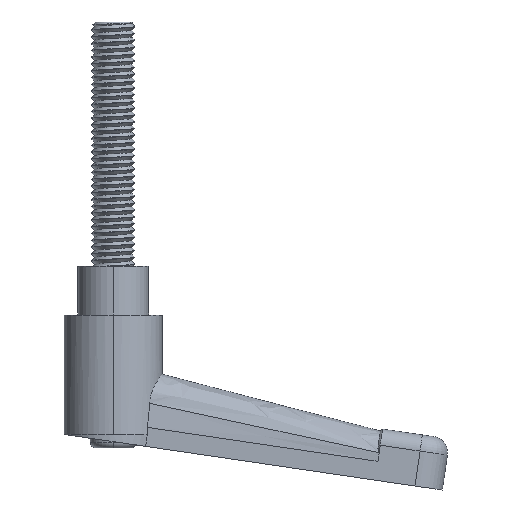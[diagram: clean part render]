
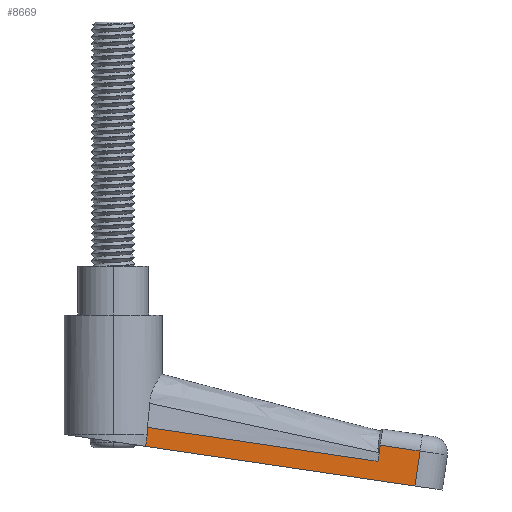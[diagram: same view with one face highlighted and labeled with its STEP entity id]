
A CAD part, left-side view. The second image highlights one B-rep face of the part: STEP entity #8669.
In plain terms, the highlighted planar face has unit normal (-1, -0.027, -0.004).
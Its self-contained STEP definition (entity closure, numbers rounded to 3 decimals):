
#137 = ORIENTED_EDGE ( 'NONE', *, *, #4188, .F. ) ;
#184 = VERTEX_POINT ( 'NONE', #1412 ) ;
#313 = CARTESIAN_POINT ( 'NONE',  ( -5.29, -48.776, -35.961 ) ) ;
#428 = ORIENTED_EDGE ( 'NONE', *, *, #4343, .T. ) ;
#922 = B_SPLINE_CURVE_WITH_KNOTS ( 'NONE', 3,
 ( #5521, #9339, #1538, #7087, #2347, #7862 ),
 .UNSPECIFIED., .F., .F.,
 ( 4, 2, 4 ),
 ( 0., 0.5, 1. ),
 .UNSPECIFIED. ) ;
#1281 = LINE ( 'NONE', #2645, #5287 ) ;
#1412 = CARTESIAN_POINT ( 'NONE',  ( -5.3, -48.42, -35.909 ) ) ;
#1538 = CARTESIAN_POINT ( 'NONE',  ( -6.071, -20.32, -31.775 ) ) ;
#1540 = ORIENTED_EDGE ( 'NONE', *, *, #3818, .F. ) ;
#1561 = CARTESIAN_POINT ( 'NONE',  ( -5.29, -48.776, -35.961 ) ) ;
#1637 = CARTESIAN_POINT ( 'NONE',  ( -5.29, -49.075, -33.925 ) ) ;
#1733 = CARTESIAN_POINT ( 'NONE',  ( -6.451, -9.553, -8.722 ) ) ;
#1871 = CARTESIAN_POINT ( 'NONE',  ( -6.456, -6.27, -29.709 ) ) ;
#2132 = CARTESIAN_POINT ( 'NONE',  ( -6.451, -5.952, -33.199 ) ) ;
#2174 = CARTESIAN_POINT ( 'NONE',  ( -5.089, -56.108, -37.04 ) ) ;
#2291 = AXIS2_PLACEMENT_3D ( 'NONE', #2174, #7699, #2974 ) ;
#2347 = CARTESIAN_POINT ( 'NONE',  ( -5.493, -41.395, -34.875 ) ) ;
#2408 = ORIENTED_EDGE ( 'NONE', *, *, #7895, .T. ) ;
#2425 = EDGE_LOOP ( 'NONE', ( #4293, #2408, #1540, #428, #3520, #4520, #7474, #3035, #137 ) ) ;
#2471 = DIRECTION ( 'NONE',  ( -0.027, 0.989, 0.145 ) ) ;
#2542 = CARTESIAN_POINT ( 'NONE',  ( -5.089, -55.599, -40.502 ) ) ;
#2633 = B_SPLINE_CURVE_WITH_KNOTS ( 'NONE', 3,
 ( #3212, #7926, #1637, #7181 ),
 .UNSPECIFIED., .F., .F.,
 ( 4, 4 ),
 ( 0., 0.471 ),
 .UNSPECIFIED. ) ;
#2645 = CARTESIAN_POINT ( 'NONE',  ( -5.089, -56.108, -37.04 ) ) ;
#2673 = CARTESIAN_POINT ( 'NONE',  ( -6.453, -6.274, -30.569 ) ) ;
#2686 = CARTESIAN_POINT ( 'NONE',  ( -5.297, -48.539, -35.926 ) ) ;
#2963 = CARTESIAN_POINT ( 'NONE',  ( -5.29, -49.212, -32.993 ) ) ;
#2974 = DIRECTION ( 'NONE',  ( -0.027, 1., 0. ) ) ;
#3035 = ORIENTED_EDGE ( 'NONE', *, *, #6848, .T. ) ;
#3165 = CARTESIAN_POINT ( 'NONE',  ( -5.29, -49.006, -34.391 ) ) ;
#3175 = VERTEX_POINT ( 'NONE', #3202 ) ;
#3202 = CARTESIAN_POINT ( 'NONE',  ( -5.089, -56.545, -34.072 ) ) ;
#3212 = CARTESIAN_POINT ( 'NONE',  ( -5.29, -49.212, -32.993 ) ) ;
#3373 = LINE ( 'NONE', #1733, #5257 ) ;
#3520 = ORIENTED_EDGE ( 'NONE', *, *, #6970, .F. ) ;
#3772 = VERTEX_POINT ( 'NONE', #8589 ) ;
#3818 = EDGE_CURVE ( 'NONE', #4475, #8556, #7319, .T. ) ;
#3970 = B_SPLINE_CURVE_WITH_KNOTS ( 'NONE', 3,
 ( #313, #6658, #2686, #8202 ),
 .UNSPECIFIED., .F., .F.,
 ( 4, 4 ),
 ( 0., 1. ),
 .UNSPECIFIED. ) ;
#4188 = EDGE_CURVE ( 'NONE', #3175, #4788, #1281, .T. ) ;
#4248 = DIRECTION ( 'NONE',  ( 0., 0.146, -0.989 ) ) ;
#4293 = ORIENTED_EDGE ( 'NONE', *, *, #7905, .T. ) ;
#4305 = CARTESIAN_POINT ( 'NONE',  ( -6.451, -6.276, -31. ) ) ;
#4343 = EDGE_CURVE ( 'NONE', #4475, #184, #3970, .T. ) ;
#4458 = VECTOR ( 'NONE', #4581, 1000. ) ;
#4475 = VERTEX_POINT ( 'NONE', #6930 ) ;
#4520 = ORIENTED_EDGE ( 'NONE', *, *, #4982, .T. ) ;
#4581 = DIRECTION ( 'NONE',  ( 0.027, -0.989, -0.145 ) ) ;
#4788 = VERTEX_POINT ( 'NONE', #2542 ) ;
#4841 = EDGE_CURVE ( 'NONE', #9279, #10107, #3373, .T. ) ;
#4982 = EDGE_CURVE ( 'NONE', #3772, #9279, #7457, .T. ) ;
#5257 = VECTOR ( 'NONE', #8840, 1000. ) ;
#5287 = VECTOR ( 'NONE', #4248, 1000. ) ;
#5521 = CARTESIAN_POINT ( 'NONE',  ( -6.456, -6.27, -29.709 ) ) ;
#5848 = CARTESIAN_POINT ( 'NONE',  ( -6.455, -6.272, -30.139 ) ) ;
#5875 = CARTESIAN_POINT ( 'NONE',  ( -5.29, -49.006, -34.391 ) ) ;
#6658 = CARTESIAN_POINT ( 'NONE',  ( -5.294, -48.657, -35.944 ) ) ;
#6848 = EDGE_CURVE ( 'NONE', #10107, #4788, #8619, .T. ) ;
#6930 = CARTESIAN_POINT ( 'NONE',  ( -5.29, -48.776, -35.961 ) ) ;
#6970 = EDGE_CURVE ( 'NONE', #3772, #184, #922, .T. ) ;
#6978 = VERTEX_POINT ( 'NONE', #2963 ) ;
#7087 = CARTESIAN_POINT ( 'NONE',  ( -5.685, -34.37, -33.842 ) ) ;
#7104 = CARTESIAN_POINT ( 'NONE',  ( -5.29, -48.852, -35.438 ) ) ;
#7125 = FACE_OUTER_BOUND ( 'NONE', #2425, .T. ) ;
#7181 = CARTESIAN_POINT ( 'NONE',  ( -5.29, -49.006, -34.391 ) ) ;
#7319 = B_SPLINE_CURVE_WITH_KNOTS ( 'NONE', 3,
 ( #1561, #7104, #7873, #3165 ),
 .UNSPECIFIED., .F., .F.,
 ( 4, 4 ),
 ( 0., 1. ),
 .UNSPECIFIED. ) ;
#7457 =( BOUNDED_CURVE ( )  B_SPLINE_CURVE ( 3, ( #1871, #5848, #2673, #8191 ),
 .UNSPECIFIED., .F., .F. ) 
 B_SPLINE_CURVE_WITH_KNOTS ( ( 4, 4 ),
 ( 0.744, 0.745 ),
 .UNSPECIFIED. ) 
 CURVE ( )  GEOMETRIC_REPRESENTATION_ITEM ( )  RATIONAL_B_SPLINE_CURVE ( ( 1., 1., 1., 1. ) ) 
 REPRESENTATION_ITEM ( '' )  );
#7474 = ORIENTED_EDGE ( 'NONE', *, *, #4841, .T. ) ;
#7699 = DIRECTION ( 'NONE',  ( 1., 0.027, 0.004 ) ) ;
#7862 = CARTESIAN_POINT ( 'NONE',  ( -5.3, -48.42, -35.909 ) ) ;
#7873 = CARTESIAN_POINT ( 'NONE',  ( -5.29, -48.929, -34.914 ) ) ;
#7895 = EDGE_CURVE ( 'NONE', #6978, #8556, #2633, .T. ) ;
#7905 = EDGE_CURVE ( 'NONE', #3175, #6978, #10138, .T. ) ;
#7926 = CARTESIAN_POINT ( 'NONE',  ( -5.29, -49.144, -33.459 ) ) ;
#7960 = CARTESIAN_POINT ( 'NONE',  ( -5.089, -56.545, -34.072 ) ) ;
#8191 = CARTESIAN_POINT ( 'NONE',  ( -6.451, -6.276, -31. ) ) ;
#8202 = CARTESIAN_POINT ( 'NONE',  ( -5.3, -48.42, -35.909 ) ) ;
#8556 = VERTEX_POINT ( 'NONE', #5875 ) ;
#8589 = CARTESIAN_POINT ( 'NONE',  ( -6.456, -6.27, -29.709 ) ) ;
#8619 = LINE ( 'NONE', #9243, #4458 ) ;
#8669 = ADVANCED_FACE ( 'NONE', ( #7125 ), #9217, .F. ) ;
#8840 = DIRECTION ( 'NONE',  ( 0., 0.146, -0.989 ) ) ;
#9217 = PLANE ( 'NONE',  #2291 ) ;
#9243 = CARTESIAN_POINT ( 'NONE',  ( -5.089, -55.599, -40.502 ) ) ;
#9279 = VERTEX_POINT ( 'NONE', #4305 ) ;
#9339 = CARTESIAN_POINT ( 'NONE',  ( -6.264, -13.295, -30.742 ) ) ;
#9893 = VECTOR ( 'NONE', #2471, 1000. ) ;
#10107 = VERTEX_POINT ( 'NONE', #2132 ) ;
#10138 = LINE ( 'NONE', #7960, #9893 ) ;
